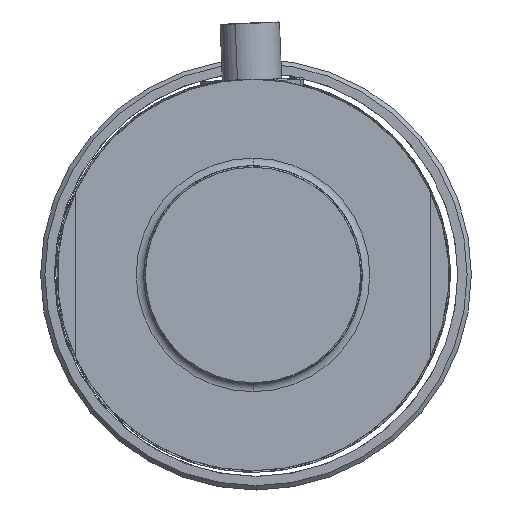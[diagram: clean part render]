
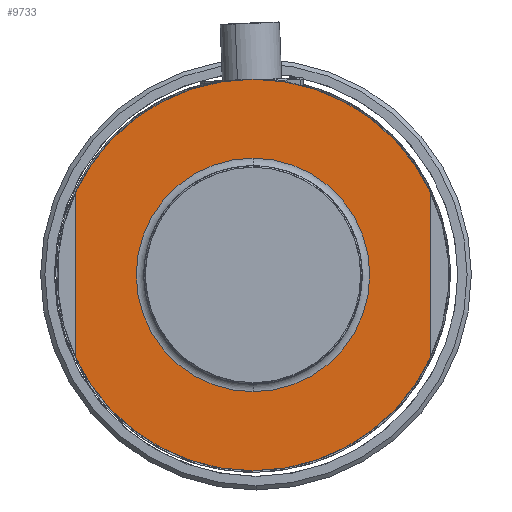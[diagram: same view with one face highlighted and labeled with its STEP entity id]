
A CAD part, front view. The second image highlights one B-rep face of the part: STEP entity #9733.
In plain terms, the highlighted planar face has unit normal (0, -1, 0).
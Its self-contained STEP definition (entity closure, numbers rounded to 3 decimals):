
#10 = FACE_OUTER_BOUND ( 'NONE', #13526, .T. ) ;
#29 = FACE_BOUND ( 'NONE', #13644, .T. ) ;
#5634 = CIRCLE ( 'NONE', #7091, 34.62 ) ;
#5653 = CIRCLE ( 'NONE', #7074, 34.62 ) ;
#5768 = CARTESIAN_POINT ( 'NONE',  ( 33.903, -44.485, 28.33 ) ) ;
#6421 = CARTESIAN_POINT ( 'NONE',  ( 2.458, -44.485, 13.847 ) ) ;
#6422 = DIRECTION ( 'NONE',  ( 0., 0., -1. ) ) ;
#6433 = DIRECTION ( 'NONE',  ( 0., -1., 0. ) ) ;
#6462 = CARTESIAN_POINT ( 'NONE',  ( 2.458, -44.485, 13.847 ) ) ;
#6491 = DIRECTION ( 'NONE',  ( 0., -1., 0. ) ) ;
#6492 = DIRECTION ( 'NONE',  ( 0., 0., -1. ) ) ;
#6506 = CARTESIAN_POINT ( 'NONE',  ( 2.458, -44.485, 13.847 ) ) ;
#6515 = DIRECTION ( 'NONE',  ( 0., 0., -1. ) ) ;
#6524 = CARTESIAN_POINT ( 'NONE',  ( -28.987, -44.485, -25.082 ) ) ;
#6526 = DIRECTION ( 'NONE',  ( 0., 1., 0. ) ) ;
#6532 = DIRECTION ( 'NONE',  ( 0., 0., 1. ) ) ;
#6604 = CARTESIAN_POINT ( 'NONE',  ( 2.458, -44.485, 13.847 ) ) ;
#6606 = DIRECTION ( 'NONE',  ( 0., 0., -1. ) ) ;
#6625 = DIRECTION ( 'NONE',  ( 0., -1., 0. ) ) ;
#6727 = DIRECTION ( 'NONE',  ( 0., 0., -1. ) ) ;
#6767 = CARTESIAN_POINT ( 'NONE',  ( 2.458, -44.485, 13.847 ) ) ;
#6775 = DIRECTION ( 'NONE',  ( 0., -1., 0. ) ) ;
#7074 = AXIS2_PLACEMENT_3D ( 'NONE', #6421, #6433, #6422 ) ;
#7085 = AXIS2_PLACEMENT_3D ( 'NONE', #6506, #6526, #6515 ) ;
#7091 = AXIS2_PLACEMENT_3D ( 'NONE', #6462, #6491, #6492 ) ;
#7098 = AXIS2_PLACEMENT_3D ( 'NONE', #6604, #6625, #6606 ) ;
#7100 = AXIS2_PLACEMENT_3D ( 'NONE', #6767, #6775, #6727 ) ;
#7121 = AXIS2_PLACEMENT_3D ( 'NONE', #8984, #8971, #8957 ) ;
#7195 = VECTOR ( 'NONE', #6532, 1000. ) ;
#7209 = CIRCLE ( 'NONE', #7098, 34.62 ) ;
#7213 = LINE ( 'NONE', #6524, #7195 ) ;
#7225 = CIRCLE ( 'NONE', #7085, 20.65 ) ;
#7256 = CIRCLE ( 'NONE', #7100, 34.62 ) ;
#7273 = LINE ( 'NONE', #7938, #7288 ) ;
#7288 = VECTOR ( 'NONE', #7936, 1000. ) ;
#7404 = CIRCLE ( 'NONE', #7121, 20.65 ) ;
#7936 = DIRECTION ( 'NONE',  ( 0., 0., 1. ) ) ;
#7938 = CARTESIAN_POINT ( 'NONE',  ( 33.903, -44.485, -25.082 ) ) ;
#8016 = CARTESIAN_POINT ( 'NONE',  ( 2.458, -44.485, -6.803 ) ) ;
#8046 = CARTESIAN_POINT ( 'NONE',  ( 2.458, -44.485, -20.773 ) ) ;
#8049 = CARTESIAN_POINT ( 'NONE',  ( 2.458, -44.485, 34.497 ) ) ;
#8052 = CARTESIAN_POINT ( 'NONE',  ( 2.458, -44.485, 48.467 ) ) ;
#8079 = CARTESIAN_POINT ( 'NONE',  ( 33.903, -44.485, -0.636 ) ) ;
#8282 = CARTESIAN_POINT ( 'NONE',  ( -28.987, -44.485, 28.33 ) ) ;
#8371 = CARTESIAN_POINT ( 'NONE',  ( -28.987, -44.485, -0.636 ) ) ;
#8957 = DIRECTION ( 'NONE',  ( 0., 0., -1. ) ) ;
#8971 = DIRECTION ( 'NONE',  ( 0., 1., 0. ) ) ;
#8984 = CARTESIAN_POINT ( 'NONE',  ( 2.458, -44.485, 13.847 ) ) ;
#9733 = ADVANCED_FACE ( 'NONE', ( #29, #10 ), #17021, .T. ) ;
#11552 = VERTEX_POINT ( 'NONE', #5768 ) ;
#11757 = EDGE_CURVE ( 'NONE', #11552, #12602, #5653, .T. ) ;
#11765 = EDGE_CURVE ( 'NONE', #12576, #12608, #5634, .T. ) ;
#11780 = EDGE_CURVE ( 'NONE', #12557, #12569, #7225, .T. ) ;
#11783 = EDGE_CURVE ( 'NONE', #13168, #13145, #7213, .T. ) ;
#11802 = EDGE_CURVE ( 'NONE', #12602, #13145, #7209, .T. ) ;
#11818 = EDGE_CURVE ( 'NONE', #13168, #12576, #7256, .T. ) ;
#11867 = EDGE_CURVE ( 'NONE', #12608, #11552, #7273, .T. ) ;
#12557 = VERTEX_POINT ( 'NONE', #8016 ) ;
#12569 = VERTEX_POINT ( 'NONE', #8049 ) ;
#12576 = VERTEX_POINT ( 'NONE', #8046 ) ;
#12602 = VERTEX_POINT ( 'NONE', #8052 ) ;
#12608 = VERTEX_POINT ( 'NONE', #8079 ) ;
#12684 = ORIENTED_EDGE ( 'NONE', *, *, #11818, .T. ) ;
#12688 = ORIENTED_EDGE ( 'NONE', *, *, #11765, .T. ) ;
#13145 = VERTEX_POINT ( 'NONE', #8282 ) ;
#13168 = VERTEX_POINT ( 'NONE', #8371 ) ;
#13322 = EDGE_CURVE ( 'NONE', #12569, #12557, #7404, .T. ) ;
#13474 = ORIENTED_EDGE ( 'NONE', *, *, #13322, .T. ) ;
#13489 = ORIENTED_EDGE ( 'NONE', *, *, #11780, .T. ) ;
#13490 = ORIENTED_EDGE ( 'NONE', *, *, #11757, .T. ) ;
#13494 = ORIENTED_EDGE ( 'NONE', *, *, #11802, .T. ) ;
#13505 = ORIENTED_EDGE ( 'NONE', *, *, #11867, .T. ) ;
#13526 = EDGE_LOOP ( 'NONE', ( #12684, #12688, #13505, #13490, #13494, #13541 ) ) ;
#13541 = ORIENTED_EDGE ( 'NONE', *, *, #11783, .F. ) ;
#13644 = EDGE_LOOP ( 'NONE', ( #13489, #13474 ) ) ;
#14774 = AXIS2_PLACEMENT_3D ( 'NONE', #17018, #17023, #16981 ) ;
#16981 = DIRECTION ( 'NONE',  ( 0., 0., -1. ) ) ;
#17018 = CARTESIAN_POINT ( 'NONE',  ( 2.458, -44.485, 13.847 ) ) ;
#17021 = PLANE ( 'NONE',  #14774 ) ;
#17023 = DIRECTION ( 'NONE',  ( 0., -1., 0. ) ) ;
